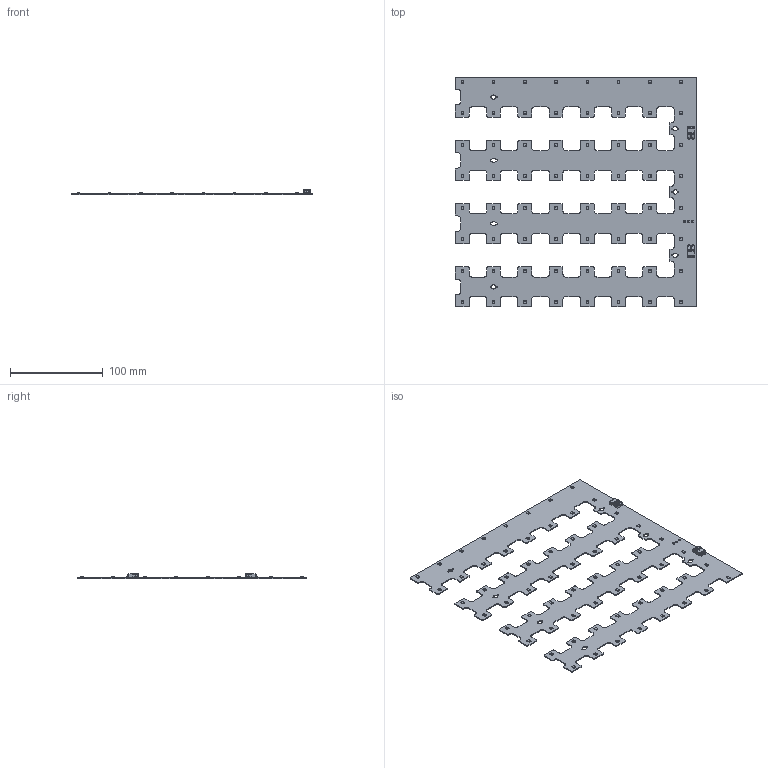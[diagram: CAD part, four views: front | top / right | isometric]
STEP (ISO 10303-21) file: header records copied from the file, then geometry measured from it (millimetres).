
FILE_DESCRIPTION(/* description */ (''),/* implementation_level */ '2;1');
FILE_NAME(/* name */ 'C:\Data\Vault\LE-TPD\9290 039 93000_Fortimo LED Square-S SMF HV_LV4\Fortimo LED Square-S SMF HV LV4 2024-08-19.stp',/* time_stamp */ '2024-08-20T09:20:56+02:00',/* author */ ('plr05507'),/* organization */ (''),/* preprocessor_version */ 'ST-DEVELOPER v18.1',/* originating_system */ 'Autodesk Inventor 2022',/* authorisation */ '');
FILE_SCHEMA (('AUTOMOTIVE_DESIGN { 1 0 10303 214 3 1 1 }'));
Products named in the file (1): 4422-964-60710_Simplify_1
Bounding box: 260 x 247.7 x 5.5 mm (x, y, z)
Volume: 37342.9 mm3; surface area: 78407 mm2
Topology: 1 solids, 1 shells, 4200 faces, 12361 edges, 8238 vertices
Faces by surface type: plane 3533, cylinder 660, sphere 4, bspline 3
Full cylindrical faces by diameter (mm): 2.25 x4, 2.5 x3
Entity records: 142916 total; most frequent: CARTESIAN_POINT 25061, ORIENTED_EDGE 24716, DIRECTION 22084, EDGE_CURVE 12358, LINE 10976, VECTOR 10976, VERTEX_POINT 8238, AXIS2_PLACEMENT_3D 5554
